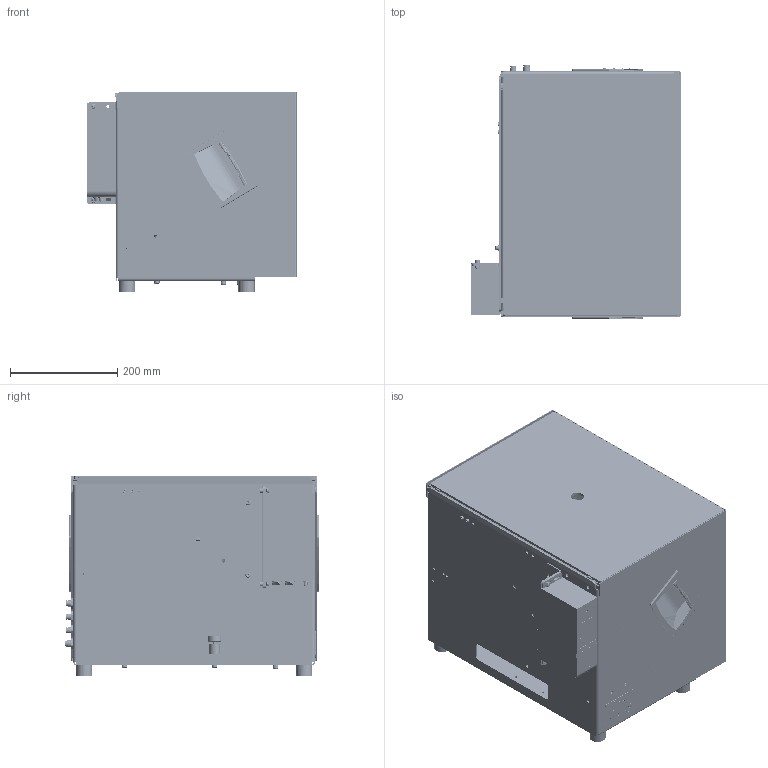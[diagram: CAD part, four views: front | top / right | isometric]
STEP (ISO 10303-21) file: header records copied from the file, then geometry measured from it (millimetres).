
FILE_DESCRIPTION(/* description */ ('© Copyright 2019 – Urheberrechtshinweis Diese CAD-Daten sind urheberrechtlich geschützt. Das Urheberrecht liegt, soweit nicht ausdrücklich anders gekennzeichnet, bei Stöger Automation GmbH. Bitte fragen Sie uns, falls Sie die CAD-Daten vervielfältigen oder','CAx-IF Rec.Pracs.---Representation and Presentation of Product Manufacturing Information (PMI)---4.0---2014-10-13'),/* implementation_level */ '2;1');
FILE_NAME(/* name */ 'H:\00_0 Arbeiten für Marketing\581407\3D_Step_file_ZSE2600 Measurement escapement.stp',/* time_stamp */ '2020-05-20T12:15:06+02:00',/* author */ ('Stöger Automation GmbH'),/* organization */ ('Stöger Automation GmbH'),/* preprocessor_version */ 'ST-DEVELOPER v17',/* originating_system */ 'Autodesk Inventor 2018',/* authorisation */ '');
FILE_SCHEMA (('AP242_MANAGED_MODEL_BASED_3D_ENGINEERING_MIM_LF { 1 0 10303 442 1 1 4 }'));
Products named in the file (1): 581407
Bounding box: 391.08 x 474.7 x 372 mm (x, y, z)
Volume: 11552633 mm3; surface area: 2699399.5 mm2
Topology: 21 solids, 124 shells, 8169 faces, 21840 edges, 14493 vertices
Faces by surface type: plane 4341, cylinder 1768, bspline 1121, cone 689, torus 209, sphere 41
Full cylindrical faces by diameter (mm): 0.5 x1, 0.65 x10, 0.8 x3, 1 x4, 1.2 x2, 1.8 x2, 1.9 x4, 2 x7, 2.2 x4, 2.459 x4, 2.65 x2, 2.8 x1, 2.9 x6, 3 x19, 3.03 x2, 3.05 x1, 3.1 x1, 3.242 x25, 3.387 x2, 3.5 x1, 3.6 x3, 3.8 x4, 3.99 x4, 4 x50, 4.019 x6, 4.02 x2, 4.03 x6, 4.134 x13, 4.2 x3, 4.3 x12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
Entity records: 292930 total; most frequent: CARTESIAN_POINT 86239, ORIENTED_EDGE 43436, DIRECTION 38419, EDGE_CURVE 21718, VERTEX_POINT 14491, AXIS2_PLACEMENT_3D 13438, LINE 11543, VECTOR 11543
